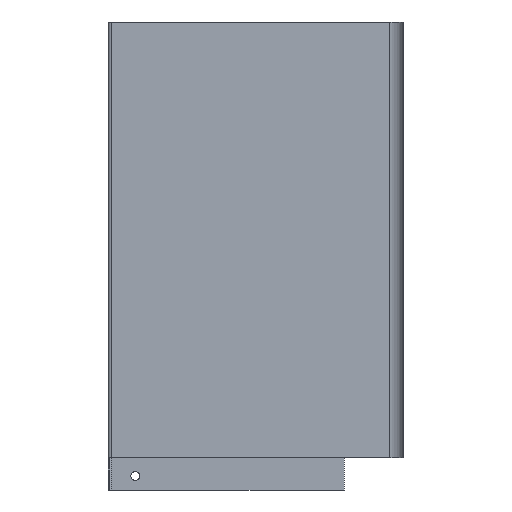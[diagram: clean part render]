
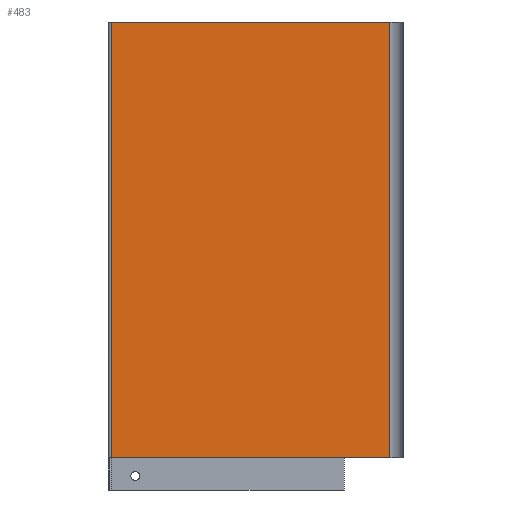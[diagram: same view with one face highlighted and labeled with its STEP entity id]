
A CAD part, left-side view. The second image highlights one B-rep face of the part: STEP entity #483.
In plain terms, the highlighted planar face has unit normal (-1, 0, 0).
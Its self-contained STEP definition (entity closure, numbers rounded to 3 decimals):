
#22 = CARTESIAN_POINT ( 'NONE',  ( -8., -144.438, -419.266 ) ) ;
#32 = EDGE_CURVE ( 'NONE', #649, #80, #322, .T. ) ;
#44 = EDGE_CURVE ( 'NONE', #635, #80, #416, .T. ) ;
#80 = VERTEX_POINT ( 'NONE', #640 ) ;
#96 = ORIENTED_EDGE ( 'NONE', *, *, #44, .T. ) ;
#105 = LINE ( 'NONE', #204, #868 ) ;
#177 = DIRECTION ( 'NONE',  ( 1., 0., 0. ) ) ;
#182 = DIRECTION ( 'NONE',  ( 0., 0., 1. ) ) ;
#183 = ORIENTED_EDGE ( 'NONE', *, *, #774, .T. ) ;
#199 = DIRECTION ( 'NONE',  ( 0., -1., 0. ) ) ;
#204 = CARTESIAN_POINT ( 'NONE',  ( -8., -144.438, -249. ) ) ;
#272 = CARTESIAN_POINT ( 'NONE',  ( -8., 14.6, -249. ) ) ;
#284 = VECTOR ( 'NONE', #182, 1000. ) ;
#322 = LINE ( 'NONE', #628, #284 ) ;
#328 = DIRECTION ( 'NONE',  ( 0., 0., 1. ) ) ;
#338 = FACE_OUTER_BOUND ( 'NONE', #650, .T. ) ;
#357 = AXIS2_PLACEMENT_3D ( 'NONE', #420, #177, #866 ) ;
#381 = ORIENTED_EDGE ( 'NONE', *, *, #622, .T. ) ;
#416 = LINE ( 'NONE', #698, #778 ) ;
#420 = CARTESIAN_POINT ( 'NONE',  ( -8., -144.438, -419.266 ) ) ;
#441 = VERTEX_POINT ( 'NONE', #667 ) ;
#483 = ADVANCED_FACE ( 'NONE', ( #338 ), #627, .F. ) ;
#497 = LINE ( 'NONE', #22, #648 ) ;
#622 = EDGE_CURVE ( 'NONE', #649, #441, #105, .T. ) ;
#627 = PLANE ( 'NONE',  #357 ) ;
#628 = CARTESIAN_POINT ( 'NONE',  ( -8., 14.6, -419.266 ) ) ;
#635 = VERTEX_POINT ( 'NONE', #802 ) ;
#640 = CARTESIAN_POINT ( 'NONE',  ( -8., 14.6, 0. ) ) ;
#648 = VECTOR ( 'NONE', #328, 1000. ) ;
#649 = VERTEX_POINT ( 'NONE', #272 ) ;
#650 = EDGE_LOOP ( 'NONE', ( #381, #183, #96, #850 ) ) ;
#655 = DIRECTION ( 'NONE',  ( 0., 1., 0. ) ) ;
#667 = CARTESIAN_POINT ( 'NONE',  ( -8., -144.438, -249. ) ) ;
#698 = CARTESIAN_POINT ( 'NONE',  ( -8., -144.438, 0. ) ) ;
#774 = EDGE_CURVE ( 'NONE', #441, #635, #497, .T. ) ;
#778 = VECTOR ( 'NONE', #655, 1000. ) ;
#802 = CARTESIAN_POINT ( 'NONE',  ( -8., -144.438, 0. ) ) ;
#850 = ORIENTED_EDGE ( 'NONE', *, *, #32, .F. ) ;
#866 = DIRECTION ( 'NONE',  ( 0., 1., 0. ) ) ;
#868 = VECTOR ( 'NONE', #199, 1000. ) ;
